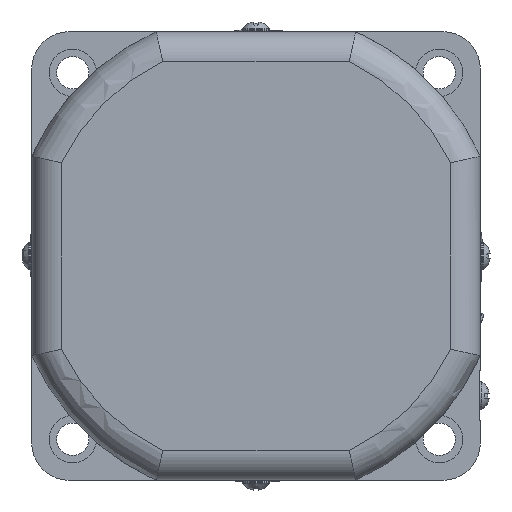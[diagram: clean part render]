
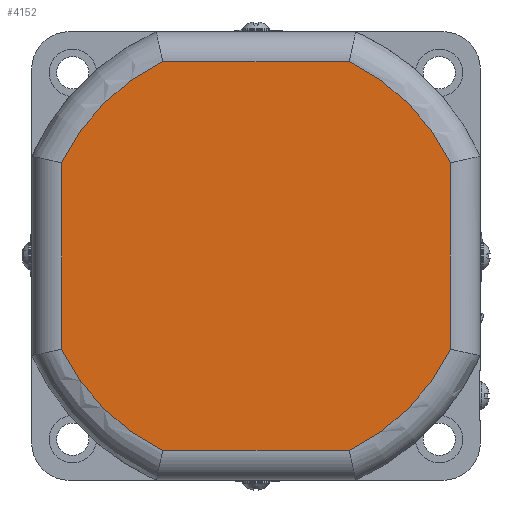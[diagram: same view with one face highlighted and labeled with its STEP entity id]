
A CAD part, left-side view. The second image highlights one B-rep face of the part: STEP entity #4152.
In plain terms, the highlighted planar face has unit normal (-1, 0, 0).
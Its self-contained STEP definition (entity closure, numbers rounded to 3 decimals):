
#271=LINE('',#6780,#616);
#274=LINE('',#6800,#619);
#275=LINE('',#6853,#620);
#276=LINE('',#6870,#621);
#616=VECTOR('',#5177,37.393);
#619=VECTOR('',#5182,37.393);
#620=VECTOR('',#5197,37.393);
#621=VECTOR('',#5200,37.393);
#1029=FACE_OUTER_BOUND('',#1288,.T.);
#1288=EDGE_LOOP('',(#3117,#3118,#3119,#3120,#3121,#3122,#3123,#3124));
#1533=CIRCLE('',#4481,43.25);
#1534=CIRCLE('',#4485,43.25);
#1537=CIRCLE('',#4489,43.25);
#1538=CIRCLE('',#4493,43.25);
#1803=VERTEX_POINT('',#6730);
#1805=VERTEX_POINT('',#6747);
#1807=VERTEX_POINT('',#6765);
#1809=VERTEX_POINT('',#6784);
#1810=VERTEX_POINT('',#6802);
#1811=VERTEX_POINT('',#6820);
#1812=VERTEX_POINT('',#6838);
#1813=VERTEX_POINT('',#6855);
#2281=EDGE_CURVE('',#1805,#1803,#1533,.T.);
#2283=EDGE_CURVE('',#1807,#1805,#271,.T.);
#2287=EDGE_CURVE('',#1803,#1809,#274,.T.);
#2289=EDGE_CURVE('',#1810,#1807,#1534,.T.);
#2293=EDGE_CURVE('',#1809,#1811,#1537,.T.);
#2295=EDGE_CURVE('',#1812,#1810,#275,.T.);
#2297=EDGE_CURVE('',#1811,#1813,#276,.T.);
#2298=EDGE_CURVE('',#1813,#1812,#1538,.T.);
#3117=ORIENTED_EDGE('',*,*,#2297,.F.);
#3118=ORIENTED_EDGE('',*,*,#2293,.F.);
#3119=ORIENTED_EDGE('',*,*,#2287,.F.);
#3120=ORIENTED_EDGE('',*,*,#2281,.F.);
#3121=ORIENTED_EDGE('',*,*,#2283,.F.);
#3122=ORIENTED_EDGE('',*,*,#2289,.F.);
#3123=ORIENTED_EDGE('',*,*,#2295,.F.);
#3124=ORIENTED_EDGE('',*,*,#2298,.F.);
#3960=PLANE('',#4495);
#4152=ADVANCED_FACE('',(#1029),#3960,.F.);
#4481=AXIS2_PLACEMENT_3D('',#6762,#5173,#5174);
#4485=AXIS2_PLACEMENT_3D('',#6817,#5185,#5186);
#4489=AXIS2_PLACEMENT_3D('',#6836,#5193,#5194);
#4493=AXIS2_PLACEMENT_3D('',#6872,#5203,#5204);
#4495=AXIS2_PLACEMENT_3D('',#6874,#5207,#5208);
#5173=DIRECTION('center_axis',(1.,0.,0.));
#5174=DIRECTION('ref_axis',(0.,0.707,0.707));
#5177=DIRECTION('',(0.,0.,1.));
#5182=DIRECTION('',(0.,-1.,0.));
#5185=DIRECTION('center_axis',(1.,0.,0.));
#5186=DIRECTION('ref_axis',(0.,0.707,-0.707));
#5193=DIRECTION('center_axis',(1.,0.,0.));
#5194=DIRECTION('ref_axis',(0.,-0.707,0.707));
#5197=DIRECTION('',(0.,1.,0.));
#5200=DIRECTION('',(0.,0.,-1.));
#5203=DIRECTION('center_axis',(1.,0.,0.));
#5204=DIRECTION('ref_axis',(0.,-0.707,-0.707));
#5207=DIRECTION('center_axis',(1.,0.,0.));
#5208=DIRECTION('ref_axis',(0.,0.,-1.));
#6730=CARTESIAN_POINT('',(-58.3,18.697,39.));
#6747=CARTESIAN_POINT('',(-58.3,39.,18.697));
#6762=CARTESIAN_POINT('Origin',(-58.3,0.,0.));
#6765=CARTESIAN_POINT('',(-58.3,39.,-18.697));
#6780=CARTESIAN_POINT('',(-58.3,39.,-18.697));
#6784=CARTESIAN_POINT('',(-58.3,-18.697,39.));
#6800=CARTESIAN_POINT('',(-58.3,18.697,39.));
#6802=CARTESIAN_POINT('',(-58.3,18.697,-39.));
#6817=CARTESIAN_POINT('Origin',(-58.3,0.,0.));
#6820=CARTESIAN_POINT('',(-58.3,-39.,18.697));
#6836=CARTESIAN_POINT('Origin',(-58.3,0.,0.));
#6838=CARTESIAN_POINT('',(-58.3,-18.697,-39.));
#6853=CARTESIAN_POINT('',(-58.3,-18.697,-39.));
#6855=CARTESIAN_POINT('',(-58.3,-39.,-18.697));
#6870=CARTESIAN_POINT('',(-58.3,-39.,18.697));
#6872=CARTESIAN_POINT('Origin',(-58.3,0.,0.));
#6874=CARTESIAN_POINT('Origin',(-58.3,0.,0.));
